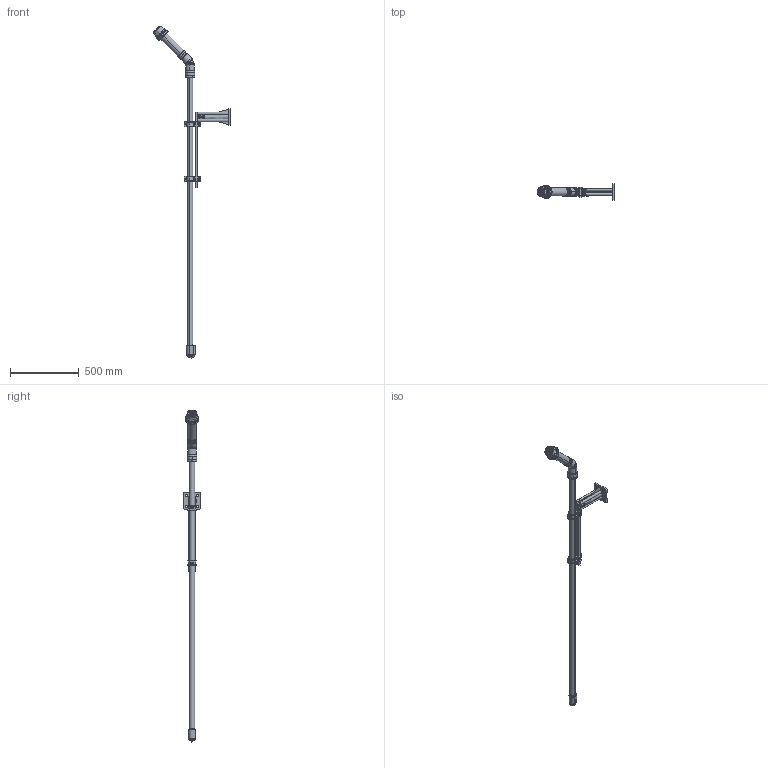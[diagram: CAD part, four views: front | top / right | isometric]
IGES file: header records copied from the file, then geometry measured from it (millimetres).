
Start section: SolidWorks IGES file using analytic representation for surfaces
Global section: file name: G:\EGK\USER\Sabine Krause\Public Group\meine_PDF\LZY714_TD_32x20__001.IGS; native system: SolidWorks 2012; preprocessor: SolidWorks 2012; author: skrause; date: 140225.120949; units: millimetre
Bounding box: 563.39 x 120 x 2420.13 mm (x, y, z)
Surface area: 1040076.8 mm2 (no closed solid volume)
Topology: 0 solids, 0 shells, 3364 faces, 38711 edges, 38461 vertices
Faces by surface type: bspline 1991, revolution 1373
